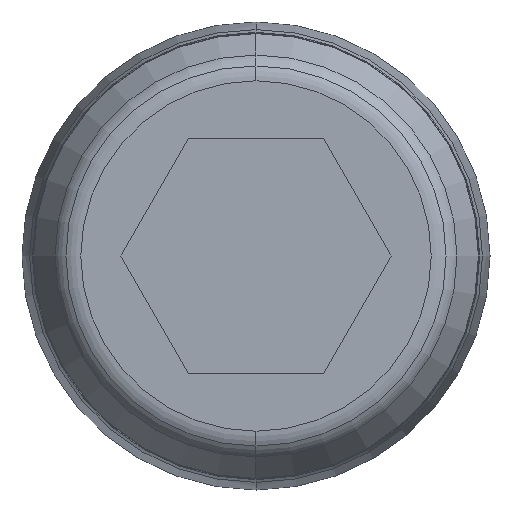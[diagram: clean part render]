
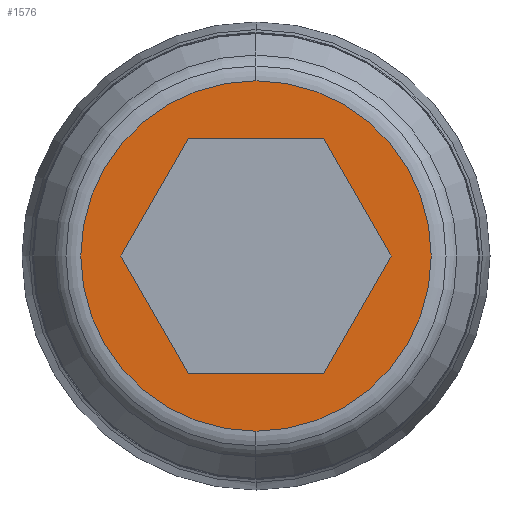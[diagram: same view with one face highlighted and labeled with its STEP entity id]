
A CAD part, left-side view. The second image highlights one B-rep face of the part: STEP entity #1576.
In plain terms, the highlighted planar face has unit normal (-1, 0, 0).
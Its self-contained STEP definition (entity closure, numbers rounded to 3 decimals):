
#513=CARTESIAN_POINT('',(0.,0.,0.));
#514=DIRECTION('',(-1.,0.,0.));
#515=DIRECTION('',(0.,0.,1.));
#516=AXIS2_PLACEMENT_3D('',#513,#514,#515);
#518=CARTESIAN_POINT('',(0.,0.,0.));
#519=DIRECTION('',(-1.,0.,0.));
#520=DIRECTION('',(0.,0.,-1.));
#521=AXIS2_PLACEMENT_3D('',#518,#519,#520);
#523=DIRECTION('',(0.,-1.,0.));
#524=VECTOR('',#523,4.619);
#525=CARTESIAN_POINT('',(0.,2.309,-4.));
#526=LINE('',#525,#524);
#527=DIRECTION('',(0.,-0.5,0.866));
#528=VECTOR('',#527,4.619);
#529=CARTESIAN_POINT('',(0.,-2.309,-4.));
#530=LINE('',#529,#528);
#531=DIRECTION('',(0.,0.5,0.866));
#532=VECTOR('',#531,4.619);
#533=CARTESIAN_POINT('',(0.,-4.619,0.));
#534=LINE('',#533,#532);
#535=DIRECTION('',(0.,1.,0.));
#536=VECTOR('',#535,4.619);
#537=CARTESIAN_POINT('',(0.,-2.309,4.));
#538=LINE('',#537,#536);
#539=DIRECTION('',(0.,0.5,-0.866));
#540=VECTOR('',#539,4.619);
#541=CARTESIAN_POINT('',(0.,2.309,4.));
#542=LINE('',#541,#540);
#543=DIRECTION('',(0.,-0.5,-0.866));
#544=VECTOR('',#543,4.619);
#545=CARTESIAN_POINT('',(0.,4.619,0.));
#546=LINE('',#545,#544);
#631=CARTESIAN_POINT('',(0.,0.,-5.988));
#632=VERTEX_POINT('',#631);
#633=CARTESIAN_POINT('',(0.,0.,5.988));
#634=VERTEX_POINT('',#633);
#755=CARTESIAN_POINT('',(0.,2.309,-4.));
#756=CARTESIAN_POINT('',(0.,-2.309,-4.));
#757=VERTEX_POINT('',#755);
#758=VERTEX_POINT('',#756);
#759=CARTESIAN_POINT('',(0.,-4.619,0.));
#760=VERTEX_POINT('',#759);
#761=CARTESIAN_POINT('',(0.,-2.309,4.));
#762=VERTEX_POINT('',#761);
#763=CARTESIAN_POINT('',(0.,2.309,4.));
#764=VERTEX_POINT('',#763);
#765=CARTESIAN_POINT('',(0.,4.619,0.));
#766=VERTEX_POINT('',#765);
#1552=CARTESIAN_POINT('',(0.,0.,0.));
#1553=DIRECTION('',(1.,0.,0.));
#1554=DIRECTION('',(0.,0.,-1.));
#1555=AXIS2_PLACEMENT_3D('',#1552,#1553,#1554);
#1556=PLANE('',#1555);
#1558=ORIENTED_EDGE('',*,*,#1557,.F.);
#1559=ORIENTED_EDGE('',*,*,#1542,.F.);
#1560=EDGE_LOOP('',(#1558,#1559));
#1561=FACE_OUTER_BOUND('',#1560,.F.);
#1563=ORIENTED_EDGE('',*,*,#1562,.T.);
#1565=ORIENTED_EDGE('',*,*,#1564,.T.);
#1567=ORIENTED_EDGE('',*,*,#1566,.T.);
#1569=ORIENTED_EDGE('',*,*,#1568,.T.);
#1571=ORIENTED_EDGE('',*,*,#1570,.T.);
#1573=ORIENTED_EDGE('',*,*,#1572,.T.);
#1574=EDGE_LOOP('',(#1563,#1565,#1567,#1569,#1571,#1573));
#1575=FACE_BOUND('',#1574,.F.);
#1576=ADVANCED_FACE('',(#1561,#1575),#1556,.F.);
#517=CIRCLE('',#516,5.988);
#522=CIRCLE('',#521,5.988);
#1542=EDGE_CURVE('',#632,#634,#522,.T.);
#1557=EDGE_CURVE('',#634,#632,#517,.T.);
#1562=EDGE_CURVE('',#757,#758,#526,.T.);
#1564=EDGE_CURVE('',#758,#760,#530,.T.);
#1566=EDGE_CURVE('',#760,#762,#534,.T.);
#1568=EDGE_CURVE('',#762,#764,#538,.T.);
#1570=EDGE_CURVE('',#764,#766,#542,.T.);
#1572=EDGE_CURVE('',#766,#757,#546,.T.);
